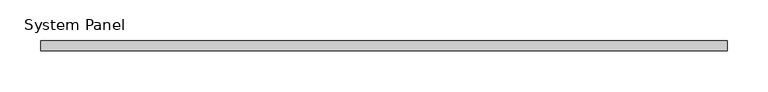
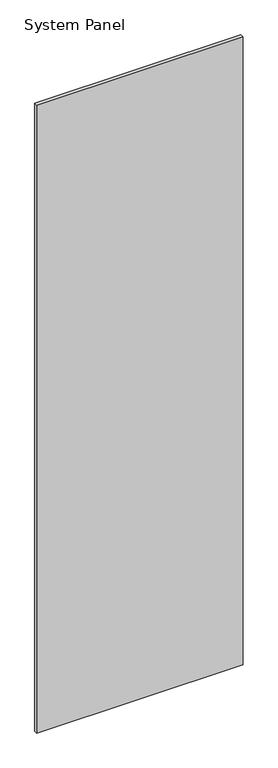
"""IFC4 building model written with IfcOpenShell, lengths in millimetres: plate geometry, System Panel : CR-BARANDA."""

from ifc_helpers import new_model, si_unit, origin, origin_with_axes, place, context, project, spatial, polyline, outline, extrude, source, transform, mapped, element, save


def system_panel_ba3bad07(model_context):
    return source(origin(), model_context, "Body", "SweptSolid", [
        extrude(outline(polyline([(422.8325959, -6.25), (-422.8325959, -6.25), (-422.8325959, 6.25), (422.8325959, 6.25), (422.8325959, -6.25)])), origin_with_axes(), (0.0, 0.0, 1.0), 2720.0),
    ])


if __name__ == "__main__":
    model = new_model("IFC4")
    model_context = context("Model", 3, world=origin())
    ifc_project = project(units=[si_unit("LENGTHUNIT", "METRE", prefix="MILLI")], contexts=[model_context])
    site = spatial("IfcSite", under=ifc_project)
    building = spatial("IfcBuilding", under=site)
    placement = place(None, origin())
    system_panel_shape = system_panel_ba3bad07(model_context)
    element("IfcPlate", 1, ObjectType="System Panel : CR-BARANDA", at=placement, inside=building, context=model_context, shape_type="MappedRepresentation", body=[
        mapped(system_panel_shape, transform((0.0, 0.0, 0.0), x_axis=(1.0, 0.0, 0.0), y_axis=(0.0, 1.0, 0.0), z_axis=(0.0, 0.0, 1.0))),
    ])
    save(model, "model.ifc")
